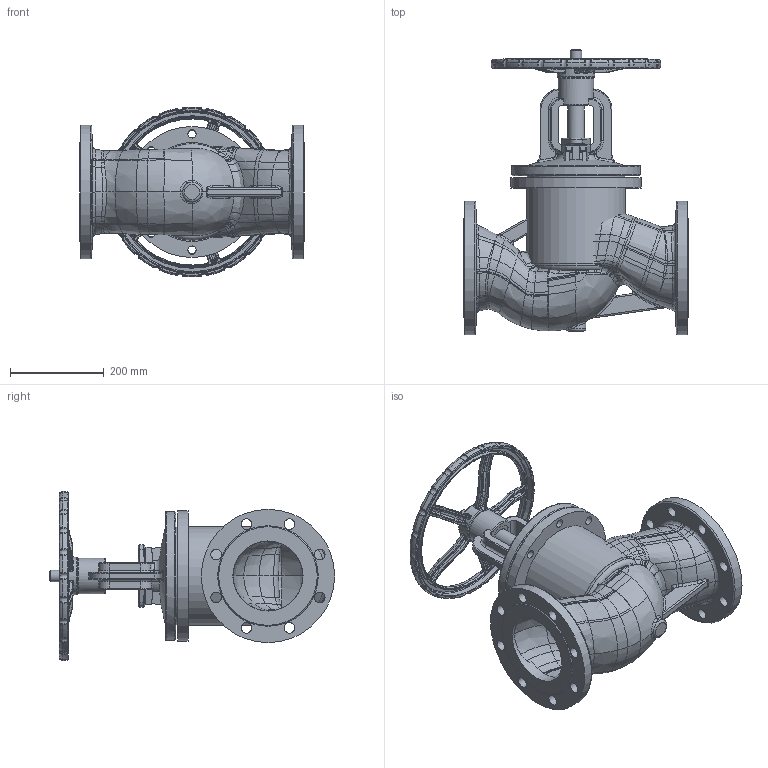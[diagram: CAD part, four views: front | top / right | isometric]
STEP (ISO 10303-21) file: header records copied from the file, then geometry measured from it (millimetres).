
FILE_DESCRIPTION(/* description */ ('STEP AP203'),/* implementation_level */ '2;1');
FILE_NAME(/* name */ '',/* time_stamp */ '2025-02-21T11:18:21+07:00',/* author */ ('Eva'),/* organization */ (''),/* preprocessor_version */ 'ST-DEVELOPER v20',/* originating_system */ 'Autodesk Inventor 2025',/* authorisation */ '');
FILE_SCHEMA (('AUTOMOTIVE_DESIGN { 1 0 10303 214 3 1 1 }'));
Length unit declared in the file: metre
Products named in the file (7): 截止阀150; 截止阀150阀盖; 德标截止阀杆螺母150; 德标截止压盖150; 德标截止150阀杆; 150.stp; YD.T-615-360.01-125-150Q-手轮
Assembly tree (6 placements, depth 2):
  截止阀150
    截止阀150阀盖
    德标截止阀杆螺母150
    德标截止压盖150
    德标截止150阀杆
    150.stp
    YD.T-615-360.01-125-150Q-手轮
Bounding box: 480 x 609.92 x 362.3 mm (x, y, z)
Volume: 11974306.9 mm3; surface area: 1814737.3 mm2
Topology: 9 solids, 9 shells, 2533 faces, 6131 edges, 3609 vertices
Faces by surface type: bspline 1663, plane 335, cylinder 276, torus 210, cone 38, sphere 11
Full cylindrical faces by diameter (mm): 14 x2, 18 x16, 23 x16, 24 x1, 27 x1, 29 x1, 36 x5, 36.8 x1, 38 x1, 52 x2, 55 x1, 56 x1, 72 x1, 76 x1, 80 x1, 135 x1, 153 x1, 159 x1, 175 x3, 178 x1, 195 x1, 206.159 x1, 208 x1, 211.759 x2, 276 x1, 280 x1, 285 x2
Entity records: 158275 total; most frequent: CARTESIAN_POINT 109354, ORIENTED_EDGE 12226, DIRECTION 7006, EDGE_CURVE 6113, VERTEX_POINT 3609, AXIS2_PLACEMENT_3D 2872, B_SPLINE_CURVE_WITH_KNOTS 2845, EDGE_LOOP 2648
